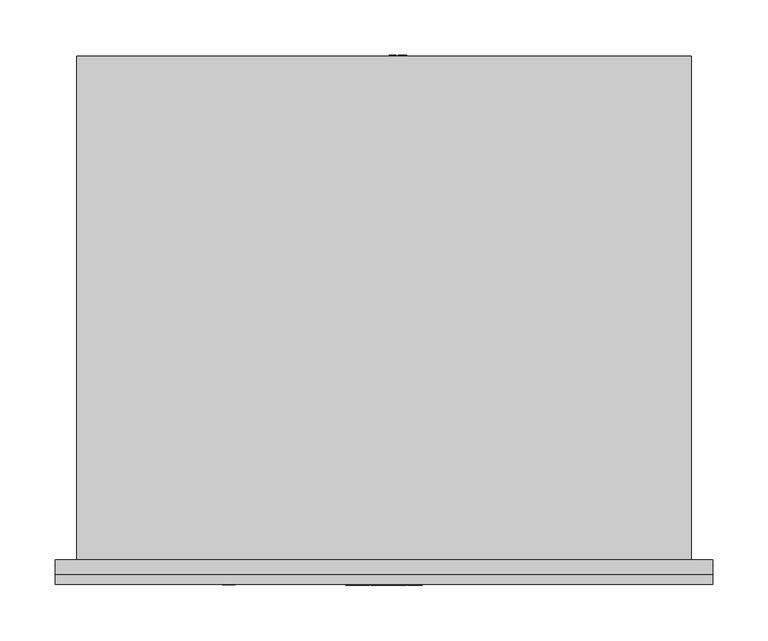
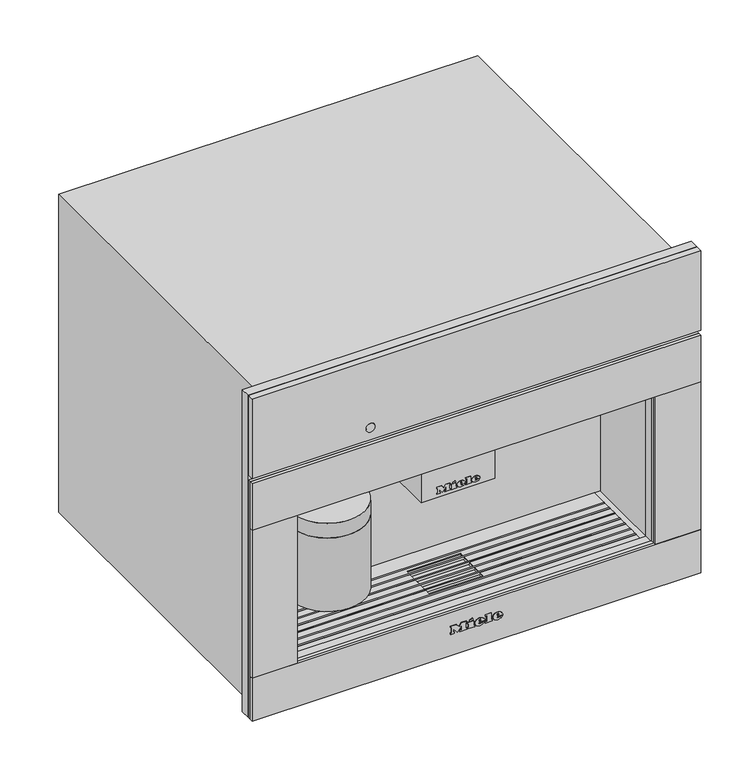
"""IFC4 building model written with IfcOpenShell, lengths in millimetres: proxy geometry, 11165710_RU_CVA7440_OBSW : 29744020_RU_11165710_CVA7440_OBSW."""

from ifc_helpers import new_model, si_unit, point, frame, frame_2d, origin, place, context, project, spatial, polyline, circle_curve, ellipse_curve, trimmed, segment, composite_curve, outline, extrude, faceted_brep, source, transform, mapped, element, save
from ifc_brep_helpers import plane_surface, cylinder_surface, revolved_surface, extruded_surface, advanced_brep


def specialty_equipment_58c7fb0d(model_context):
    return source(origin(), model_context, "Body", "SolidModel", [
        extrude(outline(composite_curve([segment(trimmed(circle_curve(frame_2d((-14.0, 36.5)), 5.0), [point((-9.0, 36.5))], [point((-19.0, 36.5))], False, "CARTESIAN"), True, "CONTINUOUS"), segment(trimmed(circle_curve(frame_2d((-14.0, 36.5)), 5.0), [point((-19.0, 36.5))], [point((-9.0, 36.5))], False, "CARTESIAN"), True, "CONTINUOUS")], self_intersect=False)), frame((0.0, 0.0, 193.0), z_axis=(0.0, 0.0, 1.0), x_axis=(1.0, 0.0, 0.0)), (0.0, 0.0, 1.0), 5.0),
        extrude(outline(composite_curve([segment(trimmed(circle_curve(frame_2d((14.0, 36.5)), 5.0), [point((19.0, 36.5))], [point((9.0, 36.5))], False, "CARTESIAN"), True, "CONTINUOUS"), segment(trimmed(circle_curve(frame_2d((14.0, 36.5)), 5.0), [point((9.0, 36.5))], [point((19.0, 36.5))], False, "CARTESIAN"), True, "CONTINUOUS")], self_intersect=False)), frame((0.0, 0.0, 193.0), z_axis=(0.0, 0.0, 1.0), x_axis=(1.0, 0.0, 0.0)), (0.0, 0.0, 1.0), 5.0),
        extrude(outline(composite_curve([segment(trimmed(circle_curve(frame_2d((-156.5, 49.5)), 50.0), [point((-106.5, 49.5))], [point((-206.5, 49.5))], False, "CARTESIAN"), True, "CONTINUOUS"), segment(trimmed(circle_curve(frame_2d((-156.5, 49.5)), 50.0), [point((-206.5, 49.5))], [point((-106.5, 49.5))], False, "CARTESIAN"), True, "CONTINUOUS")], self_intersect=False)), frame((0.0, 0.0, 100.0), z_axis=(0.0, 0.0, 1.0), x_axis=(1.0, 0.0, 0.0)), (0.0, 0.0, 1.0), 103.0),
        extrude(outline(polyline([(-49.0, 95.0), (49.0, 95.0), (49.0, 20.0), (-49.0, 20.0), (-49.0, 95.0)])), frame((0.0, 0.0, 198.0), z_axis=(0.0, 0.0, 1.0), x_axis=(1.0, 0.0, 0.0)), (0.0, 0.0, 1.0), 75.0),
        extrude(outline(polyline([(455.5, 297.5), (455.5, -297.5), (4.0, -297.5), (4.0, 297.5), (455.5, 297.5)]), holes=[polyline([(273.0, 237.5), (63.0, 237.5), (63.0, -237.5), (273.0, -237.5), (273.0, 237.5)])]), frame((0.0, -13.0, 0.0), z_axis=(0.0, 1.0, 0.0), x_axis=(0.0, 0.0, 1.0)), (0.0, 0.0, 1.0), 13.0),
        extrude(outline(polyline([(97.0, 11.140398), (107.045631, 11.140398), (107.045631, 9.8846941), (98.2557039, 9.8846941), (98.2557039, 4.8618786), (97.0, 4.8618786), (97.0, 11.140398)])), frame((0.0, 456.0, 0.0), z_axis=(0.0, 1.0, 0.0), x_axis=(0.0, 0.0, 1.0)), (0.0, 0.0, 1.0), 1.0),
        extrude(outline(polyline([(97.0, 20.4012141), (107.045631, 20.4012141), (107.045631, 13.1809168), (105.7899271, 13.1809168), (105.7899271, 19.1455102), (102.8076304, 19.1455102), (102.8076304, 13.4948427), (101.5519266, 13.4948427), (101.5519266, 19.1455102), (98.2557039, 19.1455102), (98.2557039, 13.0239538), (97.0, 13.0239538), (97.0, 20.4012141)])), frame((0.0, 456.0, 0.0), z_axis=(0.0, 1.0, 0.0), x_axis=(0.0, 0.0, 1.0)), (0.0, 0.0, 1.0), 1.0),
        advanced_brep(
        [(55.0, 425.5, 102.0), (55.0, 410.5, 102.0), (5.5239538, 410.5, 102.0), (20.5239538, 425.5, 102.0), (20.5239538, 456.0, 102.0), (5.5239538, 456.0, 102.0)],
        [
            (0, 1, circle_curve(frame((55.0, 418.0, 102.0), z_axis=(-1.0, 0.0, 0.0), x_axis=(0.0, -1.0, 0.0)), 7.5)),
            (1, 2),
            (2, 3, ellipse_curve(frame((13.0239538, 418.0, 102.0), z_axis=(0.7071067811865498, -0.7071067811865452, 0.0), x_axis=(0.7071067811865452, 0.7071067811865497, 0.0)), 10.6066017, 7.5)),
            (3, 0),
            (2, 3, ellipse_curve(frame((13.0239538, 418.0, 102.0), z_axis=(-0.7071067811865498, 0.7071067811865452, 0.0), x_axis=(-0.7071067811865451, -0.7071067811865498, 0.0)), 10.6066017, 7.5)),
            (3, 4),
            (4, 5, circle_curve(frame((13.0239538, 456.0, 102.0), z_axis=(0.0, -1.0, 0.0), x_axis=(-1.0, 0.0, 0.0)), 7.5)),
            (5, 2),
            (0, 1, circle_curve(frame((55.0, 418.0, 102.0), z_axis=(1.0, 0.0, 0.0), x_axis=(0.0, -1.0, 0.0)), 7.5)),
            (4, 5, circle_curve(frame((13.0239538, 456.0, 102.0), z_axis=(0.0, 1.0, 0.0), x_axis=(-1.0, 0.0, 0.0)), 7.5)),
        ],
        [
            cylinder_surface(frame((55.0, 418.0, 102.0), z_axis=(1.0, 0.0, 0.0), x_axis=(0.0, -1.0, 0.0)), 7.5),
            cylinder_surface(frame((13.0239538, 418.0, 102.0), z_axis=(0.0, -1.0, 0.0), x_axis=(-1.0, 0.0, 0.0)), 7.5),
            plane_surface(frame((55.0, 418.0, 102.0), z_axis=(1.0, 0.0, 0.0), x_axis=(0.0, 0.0, 1.0))),
            plane_surface(frame((13.0239538, 456.0, 102.0), z_axis=(0.0, 1.0, 0.0), x_axis=(0.0, 0.0, 1.0))),
        ],
        [
            (0, [[1, 2, 3, 4]]),
            (1, [[5, 6, 7, 8]]),
            (2, [[9, -1]]),
            (0, [[-9, -4, -5, -2]]),
            (3, [[10, -7]]),
            (1, [[-3, -8, -10, -6]]),
        ],
    ),
        advanced_brep(
        [(-106.5, 49.5, 203.0), (-206.5, 49.5, 203.0), (-156.5, 49.5, 203.0), (-106.5, 49.5, 223.5), (-206.5, 49.5, 223.5), (-110.0, 49.5, 252.0), (-203.0, 49.5, 252.0), (-110.0, 49.5, 273.0), (-203.0, 49.5, 273.0), (-156.5, 49.5, 273.0)],
        [
            (0, 1, circle_curve(frame((-156.5, 49.5, 203.0), z_axis=(0.0, 0.0, -1.0), x_axis=(-1.0, 0.0, 0.0)), 50.0)),
            (1, 2),
            (2, 0),
            (1, 0, circle_curve(frame((-156.5, 49.5, 203.0), z_axis=(0.0, 0.0, -1.0), x_axis=(-1.0, 0.0, 0.0)), 50.0)),
            (3, 4, circle_curve(frame((-156.5, 49.5, 223.5), z_axis=(0.0, 0.0, -1.0), x_axis=(-1.0, 0.0, 0.0)), 50.0)),
            (4, 1),
            (0, 3),
            (4, 3, circle_curve(frame((-156.5, 49.5, 223.5), z_axis=(0.0, 0.0, -1.0), x_axis=(-1.0, 0.0, 0.0)), 50.0)),
            (5, 6, circle_curve(frame((-156.5, 49.5, 252.0), z_axis=(0.0, 0.0, -1.0), x_axis=(-1.0, 0.0, 0.0)), 46.5)),
            (6, 4, circle_curve(frame((-206.7961166, 49.5, 238.0012775), z_axis=(0.0, 1.0, 0.0), x_axis=(-1.0, 0.0, 0.0)), 14.5043005)),
            (3, 5, circle_curve(frame((-106.2038834, 49.5, 238.0012775), z_axis=(0.0, 1.0, 0.0), x_axis=(1.0, 0.0, 0.0)), 14.5043005)),
            (6, 5, circle_curve(frame((-156.5, 49.5, 252.0), z_axis=(0.0, 0.0, -1.0), x_axis=(-1.0, 0.0, 0.0)), 46.5)),
            (7, 8, circle_curve(frame((-156.5, 49.5, 273.0), z_axis=(0.0, 0.0, -1.0), x_axis=(-1.0, 0.0, 0.0)), 46.5)),
            (8, 6),
            (5, 7),
            (8, 7, circle_curve(frame((-156.5, 49.5, 273.0), z_axis=(0.0, 0.0, -1.0), x_axis=(-1.0, 0.0, 0.0)), 46.5)),
            (9, 8),
            (7, 9),
        ],
        [
            plane_surface(frame((-156.5, 49.5, 203.0), z_axis=(0.0, 0.0, -1.0), x_axis=(-1.0, 0.0, 0.0))),
            cylinder_surface(frame((-156.5, 49.5, 388.7361736), z_axis=(0.0, 0.0, 1.0), x_axis=(-1.0, 0.0, 0.0)), 50.0),
            revolved_surface(trimmed(ellipse_curve(frame((-206.7961166, 49.5, 238.0012775), z_axis=(0.0, -1.0, 0.0), x_axis=(-1.0, 0.0, 0.0)), 14.5043005, 14.5043005), [point((-206.5, 49.5, 223.5))], [point((-203.0, 49.5, 252.0))], True, "CARTESIAN"), (-156.5, 49.5, 388.7361736), (0.0, 0.0, 1.0)),
            cylinder_surface(frame((-156.5, 49.5, 388.7361736), z_axis=(0.0, 0.0, 1.0), x_axis=(-1.0, 0.0, 0.0)), 46.5),
            plane_surface(frame((-156.5, 49.5, 273.0), z_axis=(0.0, 0.0, 1.0), x_axis=(-1.0, 0.0, 0.0))),
        ],
        [
            (0, [[1, 2, 3]]),
            (0, [[4, -3, -2]]),
            (1, [[5, 6, -1, 7]]),
            (1, [[8, -7, -4, -6]]),
            (2, [[9, 10, -5, 11]]),
            (2, [[12, -11, -8, -10]]),
            (3, [[13, 14, -9, 15]]),
            (3, [[16, -15, -12, -14]]),
            (4, [[17, -13, 18]]),
            (4, [[-18, -16, -17]]),
        ],
    ),
        faceted_brep([(229.5, 0.0, 62.0), (-229.5, 0.0, 62.0), (-229.5, 8.0, 62.0), (229.5, 8.0, 62.0), (-229.5, 104.5, 62.0), (229.5, 104.5, 62.0), (229.5, 82.0925571, 62.0), (-229.5, 82.0925571, 62.0), (36.0, 76.0, 62.0), (-36.0, 76.0, 62.0), (-36.0, 70.0550731, 62.0), (-229.5, 70.0550731, 62.0), (-229.5, 80.0925571, 62.0), (229.5, 80.0925571, 62.0), (229.5, 70.0550731, 62.0), (36.0, 70.0550731, 62.0), (-36.0, 25.0, 62.0), (36.0, 25.0, 62.0), (36.0, 31.9426212, 62.0), (229.5, 31.9426212, 62.0), (229.5, 21.9776522, 62.0), (-229.5, 21.9776522, 62.0), (-229.5, 31.9426212, 62.0), (-36.0, 31.9426212, 62.0), (229.5, 19.9776522, 62.0), (229.5, 10.0, 62.0), (-229.5, 10.0, 62.0), (-229.5, 19.9776522, 62.0), (229.5, 43.9801052, 62.0), (229.5, 33.9426212, 62.0), (36.0, 33.9426212, 62.0), (36.0, 43.9801052, 62.0), (229.5, 56.0175891, 62.0), (229.5, 45.9801052, 62.0), (36.0, 45.9801052, 62.0), (36.0, 56.0175891, 62.0), (229.5, 68.0550731, 62.0), (229.5, 58.0175891, 62.0), (36.0, 58.0175891, 62.0), (36.0, 68.0550731, 62.0), (-229.5, 33.9426212, 62.0), (-229.5, 43.9801052, 62.0), (-36.0, 43.9801052, 62.0), (-36.0, 33.9426212, 62.0), (-229.5, 45.9801052, 62.0), (-229.5, 56.0175891, 62.0), (-36.0, 56.0175891, 62.0), (-36.0, 45.9801052, 62.0), (-229.5, 58.0175891, 62.0), (-229.5, 68.0550731, 62.0), (-36.0, 68.0550731, 62.0), (-36.0, 58.0175891, 62.0), (229.5, 104.5, 63.0), (-229.5, 104.5, 63.0), (-229.5, 82.0925571, 63.0), (229.5, 82.0925571, 63.0), (-229.5, 0.0, 63.0), (229.5, 0.0, 63.0), (229.5, 8.0, 63.0), (-229.5, 8.0, 63.0), (-36.0, 76.0, 63.0), (36.0, 76.0, 63.0), (36.0, 70.0550731, 63.0), (229.5, 70.0550731, 63.0), (229.5, 80.0925571, 63.0), (-229.5, 80.0925571, 63.0), (-229.5, 70.0550731, 63.0), (-36.0, 70.0550731, 63.0), (36.0, 25.0, 63.0), (-36.0, 25.0, 63.0), (-36.0, 31.9426212, 63.0), (-229.5, 31.9426212, 63.0), (-229.5, 21.9776522, 63.0), (229.5, 21.9776522, 63.0), (229.5, 31.9426212, 63.0), (36.0, 31.9426212, 63.0), (-229.5, 19.9776522, 63.0), (-229.5, 10.0, 63.0), (229.5, 10.0, 63.0), (229.5, 19.9776522, 63.0), (-229.5, 43.9801052, 63.0), (-229.5, 33.9426212, 63.0), (-36.0, 33.9426212, 63.0), (-36.0, 43.9801052, 63.0), (-229.5, 56.0175891, 63.0), (-229.5, 45.9801052, 63.0), (-36.0, 45.9801052, 63.0), (-36.0, 56.0175891, 63.0), (-229.5, 68.0550731, 63.0), (-229.5, 58.0175891, 63.0), (-36.0, 58.0175891, 63.0), (-36.0, 68.0550731, 63.0), (229.5, 33.9426212, 63.0), (229.5, 43.9801052, 63.0), (36.0, 43.9801052, 63.0), (36.0, 33.9426212, 63.0), (229.5, 45.9801052, 63.0), (229.5, 56.0175891, 63.0), (36.0, 56.0175891, 63.0), (36.0, 45.9801052, 63.0), (229.5, 58.0175891, 63.0), (229.5, 68.0550731, 63.0), (36.0, 68.0550731, 63.0), (36.0, 58.0175891, 63.0), (-229.5, 82.0925571, 60.0), (-229.5, 80.0925571, 60.0), (-229.5, 70.0550731, 60.0), (-229.5, 68.0550731, 60.0), (-229.5, 58.0175891, 60.0), (-229.5, 56.0175891, 60.0), (-229.5, 45.9801052, 60.0), (-229.5, 43.9801052, 60.0), (-229.5, 33.9426212, 60.0), (-229.5, 31.9426212, 60.0), (-229.5, 21.9776522, 60.0), (-229.5, 19.9776522, 60.0), (-229.5, 10.0, 60.0), (-229.5, 8.0, 60.0), (-229.5, 8.0, 63.5), (-229.5, 10.0, 63.5), (-229.5, 19.9776522, 63.5), (-229.5, 21.9776522, 63.5), (-229.5, 31.9426212, 63.5), (-229.5, 33.9426212, 63.5), (-229.5, 43.9801052, 63.5), (-229.5, 45.9801052, 63.5), (-229.5, 56.0175891, 63.5), (-229.5, 58.0175891, 63.5), (-229.5, 68.0550731, 63.5), (-229.5, 70.0550731, 63.5), (-229.5, 80.0925571, 63.5), (-229.5, 82.0925571, 63.5), (229.5, 82.0925571, 63.5), (229.5, 80.0925571, 63.5), (229.5, 70.0550731, 63.5), (229.5, 68.0550731, 63.5), (229.5, 58.0175891, 63.5), (229.5, 56.0175891, 63.5), (229.5, 45.9801052, 63.5), (229.5, 43.9801052, 63.5), (229.5, 33.9426212, 63.5), (229.5, 31.9426212, 63.5), (229.5, 21.9776522, 63.5), (229.5, 19.9776522, 63.5), (229.5, 10.0, 63.5), (229.5, 8.0, 63.5), (229.5, 8.0, 60.0), (229.5, 10.0, 60.0), (229.5, 19.9776522, 60.0), (229.5, 21.9776522, 60.0), (229.5, 31.9426212, 60.0), (229.5, 33.9426212, 60.0), (229.5, 43.9801052, 60.0), (229.5, 45.9801052, 60.0), (229.5, 56.0175891, 60.0), (229.5, 58.0175891, 60.0), (229.5, 68.0550731, 60.0), (229.5, 70.0550731, 60.0), (229.5, 80.0925571, 60.0), (229.5, 82.0925571, 60.0)], [[[0, 1, 2, 3]], [[4, 5, 6, 7]], [[8, 9, 10, 11, 12, 13, 14, 15]], [[16, 17, 18, 19, 20, 21, 22, 23]], [[24, 25, 26, 27]], [[28, 29, 30, 31]], [[32, 33, 34, 35]], [[36, 37, 38, 39]], [[40, 41, 42, 43]], [[44, 45, 46, 47]], [[48, 49, 50, 51]], [[52, 53, 54, 55]], [[56, 57, 58, 59]], [[60, 61, 62, 63, 64, 65, 66, 67]], [[68, 69, 70, 71, 72, 73, 74, 75]], [[76, 77, 78, 79]], [[80, 81, 82, 83]], [[84, 85, 86, 87]], [[88, 89, 90, 91]], [[92, 93, 94, 95]], [[96, 97, 98, 99]], [[100, 101, 102, 103]], [[5, 4, 53, 52]], [[53, 4, 7, 104, 105, 12, 11, 106, 107, 49, 48, 108, 109, 45, 44, 110, 111, 41, 40, 112, 113, 22, 21, 114, 115, 27, 26, 116, 117, 2, 1, 56, 59, 118, 119, 77, 76, 120, 121, 72, 71, 122, 123, 81, 80, 124, 125, 85, 84, 126, 127, 89, 88, 128, 129, 66, 65, 130, 131, 54]], [[1, 0, 57, 56]], [[5, 52, 55, 132, 133, 64, 63, 134, 135, 101, 100, 136, 137, 97, 96, 138, 139, 93, 92, 140, 141, 74, 73, 142, 143, 79, 78, 144, 145, 58, 57, 0, 3, 146, 147, 25, 24, 148, 149, 20, 19, 150, 151, 29, 28, 152, 153, 33, 32, 154, 155, 37, 36, 156, 157, 14, 13, 158, 159, 6]], [[8, 61, 60, 9]], [[43, 42, 83, 82]], [[47, 46, 87, 86]], [[51, 50, 91, 90]], [[9, 60, 67, 10]], [[69, 16, 23, 70]], [[16, 69, 68, 17]], [[31, 30, 95, 94]], [[35, 34, 99, 98]], [[39, 38, 103, 102]], [[61, 8, 15, 62]], [[17, 68, 75, 18]], [[147, 146, 117, 116]], [[149, 148, 115, 114]], [[151, 150, 113, 112]], [[153, 152, 111, 110]], [[155, 154, 109, 108]], [[157, 156, 107, 106]], [[159, 158, 105, 104]], [[144, 119, 118, 145]], [[142, 121, 120, 143]], [[140, 123, 122, 141]], [[138, 125, 124, 139]], [[136, 127, 126, 137]], [[134, 129, 128, 135]], [[132, 131, 130, 133]], [[147, 116, 26, 25]], [[119, 144, 78, 77]], [[117, 146, 3, 2]], [[145, 118, 59, 58]], [[149, 114, 21, 20]], [[121, 142, 73, 72]], [[115, 148, 24, 27]], [[143, 120, 76, 79]], [[151, 112, 40, 43, 82, 81, 123, 140, 92, 95, 30, 29]], [[113, 150, 19, 18, 75, 74, 141, 122, 71, 70, 23, 22]], [[153, 110, 44, 47, 86, 85, 125, 138, 96, 99, 34, 33]], [[111, 152, 28, 31, 94, 93, 139, 124, 80, 83, 42, 41]], [[155, 108, 48, 51, 90, 89, 127, 136, 100, 103, 38, 37]], [[109, 154, 32, 35, 98, 97, 137, 126, 84, 87, 46, 45]], [[157, 106, 11, 10, 67, 66, 129, 134, 63, 62, 15, 14]], [[107, 156, 36, 39, 102, 101, 135, 128, 88, 91, 50, 49]], [[159, 104, 7, 6]], [[131, 132, 55, 54]], [[105, 158, 13, 12]], [[133, 130, 65, 64]]]),
        faceted_brep([(-278.0, 456.0, 0.0), (-278.0, 0.0, 0.0), (-278.0, 0.0, 446.0), (-278.0, 456.0, 446.0), (278.0, 456.0, 0.0), (278.0, 456.0, 446.0), (278.0, 0.0, 446.0), (278.0, 0.0, 0.0), (55.0, 456.0, 133.0), (-22.0, 456.0, 133.0), (-22.0, 456.0, 89.0), (35.0, 456.0, 66.0), (55.0, 456.0, 66.0), (237.5, 0.0, 273.0), (237.5, 0.0, 63.0), (229.5, 0.0, 63.0), (229.5, 0.0, 62.0), (-229.5, 0.0, 62.0), (-229.5, 0.0, 63.0), (-237.5, 0.0, 63.0), (-237.5, 0.0, 273.0), (237.5, 104.5, 273.0), (-237.5, 104.5, 273.0), (-237.5, 104.5, 63.0), (-229.5, 104.5, 63.0), (-229.5, 104.5, 62.0), (229.5, 104.5, 62.0), (229.5, 104.5, 63.0), (237.5, 104.5, 63.0), (-36.0, 76.0, 62.0), (36.0, 76.0, 62.0), (36.0, 25.0, 62.0), (-36.0, 25.0, 62.0), (36.0, 76.0, 58.0), (-36.0, 76.0, 58.0), (-36.0, 25.0, 58.0), (36.0, 25.0, 58.0), (-22.0, 400.0, 133.0), (55.0, 400.0, 133.0), (55.0, 400.0, 66.0), (35.0, 400.0, 66.0), (-22.0, 400.0, 89.0)], [[[0, 1, 2, 3]], [[4, 5, 6, 7]], [[0, 3, 5, 4], [8, 9, 10, 11, 12]], [[3, 2, 6, 5]], [[2, 1, 7, 6], [13, 14, 15, 16, 17, 18, 19, 20]], [[1, 0, 4, 7]], [[21, 22, 23, 24, 25, 26, 27, 28]], [[21, 28, 14, 13]], [[14, 28, 27, 15]], [[23, 19, 18, 24]], [[23, 22, 20, 19]], [[22, 21, 13, 20]], [[26, 25, 17, 16], [29, 30, 31, 32]], [[17, 25, 24, 18]], [[26, 16, 15, 27]], [[33, 34, 35, 36]], [[34, 33, 30, 29]], [[35, 34, 29, 32]], [[36, 35, 32, 31]], [[33, 36, 31, 30]], [[37, 38, 39, 40, 41]], [[38, 37, 9, 8]], [[39, 38, 8, 12]], [[40, 39, 12, 11]], [[41, 40, 11, 10]], [[37, 41, 10, 9]]]),
        advanced_brep(
        [(27.088, -23.0, 36.7018), (27.088, -23.0, 37.8532), (34.7146, -23.0, 37.8532), (21.445, -23.0, 37.8532), (24.58, -23.0, 34.0), (34.5208, -23.0, 36.7018), (31.078, -23.0, 36.7018), (28.3648, -23.0, 35.425), (27.088, -23.0, 39.3124), (27.088, -23.0, 40.555), (29.0374, -23.0, 40.555), (29.0374, -23.0, 39.3124), (27.088, -22.0, 36.7018), (28.3648, -22.0, 35.425), (31.078, -22.0, 36.7018), (34.5208, -22.0, 36.7018), (24.58, -22.0, 34.0), (21.445, -22.0, 37.8532), (34.7146, -22.0, 37.8532), (27.088, -22.0, 37.8532), (27.088, -22.0, 39.3124), (29.0374, -22.0, 39.3124), (29.0374, -22.0, 40.555), (27.088, -22.0, 40.555)],
        [
            (0, 1),
            (1, 2),
            (2, 3, ellipse_curve(frame((28.0798, -23.0, 37.8532), z_axis=(0.0, -1.0, 0.0), x_axis=(-1.0, 0.0, 0.0)), 6.6348, 5.4834)),
            (3, 4, circle_curve(frame((25.8568622, -23.0, 38.2408), z_axis=(0.0, -1.0, 0.0), x_axis=(0.0, 0.0, -1.0)), 4.4288556)),
            (4, 5, circle_curve(frame((27.9469808, -23.0, 41.2504), z_axis=(0.0, -1.0, 0.0), x_axis=(0.0, 0.0, -1.0)), 7.9940516)),
            (5, 6),
            (6, 7, circle_curve(frame((28.9220588, -23.0, 37.762), z_axis=(0.0, 1.0, 0.0), x_axis=(0.0, 0.0, -1.0)), 2.4025208)),
            (7, 0, circle_curve(frame((28.3648, -23.0, 36.7018), z_axis=(0.0, 1.0, 0.0), x_axis=(0.0, 0.0, -1.0)), 1.2768)),
            (8, 9),
            (9, 10, circle_curve(frame((28.0627, -23.0, 40.555), z_axis=(0.0, 1.0, 0.0), x_axis=(0.0, 0.0, -1.0)), 0.9747)),
            (10, 11),
            (11, 8),
            (12, 13, circle_curve(frame((28.3648, -22.0, 36.7018), z_axis=(0.0, -1.0, 0.0), x_axis=(0.0, 0.0, -1.0)), 1.2768)),
            (13, 14, circle_curve(frame((28.9220588, -22.0, 37.762), z_axis=(0.0, -1.0, 0.0), x_axis=(0.0, 0.0, -1.0)), 2.4025208)),
            (14, 15),
            (15, 16, circle_curve(frame((27.9469808, -22.0, 41.2504), z_axis=(0.0, 1.0, 0.0), x_axis=(0.0, 0.0, -1.0)), 7.9940516)),
            (16, 17, circle_curve(frame((25.8568622, -22.0, 38.2408), z_axis=(0.0, 1.0, 0.0), x_axis=(0.0, 0.0, -1.0)), 4.4288556)),
            (17, 18, ellipse_curve(frame((28.0798, -22.0, 37.8532), z_axis=(0.0, 1.0, 0.0), x_axis=(-1.0, 0.0, 0.0)), 6.6348, 5.4834)),
            (18, 19),
            (19, 12),
            (20, 21),
            (21, 22),
            (22, 23, circle_curve(frame((28.0627, -22.0, 40.555), z_axis=(0.0, -1.0, 0.0), x_axis=(0.0, 0.0, -1.0)), 0.9747)),
            (23, 20),
            (0, 12),
            (19, 1),
            (18, 2),
            (5, 15),
            (14, 6),
            (17, 3),
            (13, 7),
            (16, 4),
            (8, 20),
            (23, 9),
            (22, 10),
            (21, 11),
        ],
        [
            plane_surface(frame((27.088, -23.0, 37.8532), z_axis=(0.0, -1.0, 0.0), x_axis=(0.0, 0.0, 1.0))),
            plane_surface(frame((27.088, -22.0, 37.8532), z_axis=(0.0, 1.0, 0.0), x_axis=(0.0, 0.0, -1.0))),
            plane_surface(frame((27.088, -23.0, 36.7018), z_axis=(1.0, 0.0, 0.0), x_axis=(0.0, 1.0, 0.0))),
            plane_surface(frame((27.088, -23.0, 37.8532), z_axis=(0.0, 0.0, -1.0), x_axis=(0.0, 1.0, 0.0))),
            plane_surface(frame((34.5208, -23.0, 36.7018), z_axis=(0.0, 0.0, 1.0), x_axis=(0.0, 1.0, 0.0))),
            extruded_surface(trimmed(ellipse_curve(frame((28.0798, -21.0, 37.8532), z_axis=(0.0, -1.0, 0.0), x_axis=(-1.0, 0.0, 0.0)), 6.6348, 5.4834), [point((34.7146, -21.0, 37.8532))], [point((21.445, -21.0, 37.8532))], True, "CARTESIAN"), (0.0, -1.0, 0.0), 1.0),
            revolved_surface(polyline([(28.9220588, -22.0, 35.3594792), (28.9220588, -23.0, 35.3594792)]), (28.9220588, -22.0, 37.762), (0.0, 1.0, 0.0)),
            revolved_surface(polyline([(28.3648, -22.0, 35.425), (28.3648, -23.0, 35.425)]), (28.3648, -22.0, 36.7018), (0.0, 1.0, 0.0)),
            cylinder_surface(frame((25.8568622, -22.0, 38.2408), z_axis=(0.0, -1.0, 0.0), x_axis=(0.0, 0.0, -1.0)), 4.4288556),
            cylinder_surface(frame((27.9469808, -22.0, 41.2504), z_axis=(0.0, -1.0, 0.0), x_axis=(0.0, 0.0, -1.0)), 7.9940516),
            plane_surface(frame((27.088, -23.0, 39.3124), z_axis=(1.0, 0.0, 0.0), x_axis=(0.0, 1.0, 0.0))),
            revolved_surface(polyline([(28.0627, -22.0, 39.5803), (28.0627, -23.0, 39.5803)]), (28.0627, -22.0, 40.555), (0.0, 1.0, 0.0)),
            plane_surface(frame((29.0374, -23.0, 40.555), z_axis=(-1.0, 0.0, 0.0), x_axis=(0.0, 1.0, 0.0))),
            plane_surface(frame((29.0374, -23.0, 39.3124), z_axis=(0.0, 0.0, 1.0), x_axis=(0.0, 1.0, 0.0))),
        ],
        [
            (0, [[1, 2, 3, 4, 5, 6, 7, 8], [9, 10, 11, 12]]),
            (1, [[13, 14, 15, 16, 17, 18, 19, 20], [21, 22, 23, 24]]),
            (2, [[-1, 25, -20, 26]]),
            (3, [[-2, -26, -19, 27]]),
            (4, [[-6, 28, -15, 29]]),
            (5, [[-3, -27, -18, 30]]),
            (6, [[-7, -29, -14, 31]]),
            (7, [[-8, -31, -13, -25]]),
            (8, [[-4, -30, -17, 32]]),
            (9, [[-5, -32, -16, -28]]),
            (10, [[-9, 33, -24, 34]]),
            (11, [[-10, -34, -23, 35]]),
            (12, [[-11, -35, -22, 36]]),
            (13, [[-12, -36, -21, -33]]),
        ],
    ),
        advanced_brep(
        [(3.2962, -23.0, 36.7018), (3.2962, -23.0, 37.8532), (10.9228, -23.0, 37.8532), (-2.3468, -23.0, 37.8532), (0.7882, -23.0, 34.0), (10.729, -23.0, 36.7018), (7.2862, -23.0, 36.7018), (4.573, -23.0, 35.425), (3.2962, -23.0, 39.3124), (3.2962, -23.0, 40.555), (5.2456, -23.0, 40.555), (5.2456, -23.0, 39.3124), (3.2962, -22.0, 36.7018), (4.573, -22.0, 35.425), (7.2862, -22.0, 36.7018), (10.729, -22.0, 36.7018), (0.7882, -22.0, 34.0), (-2.3468, -22.0, 37.8532), (10.9228, -22.0, 37.8532), (3.2962, -22.0, 37.8532), (3.2962, -22.0, 39.3124), (5.2456, -22.0, 39.3124), (5.2456, -22.0, 40.555), (3.2962, -22.0, 40.555)],
        [
            (0, 1),
            (1, 2),
            (2, 3, ellipse_curve(frame((4.288, -23.0, 37.8532), z_axis=(0.0, -1.0, 0.0), x_axis=(-1.0, 0.0, 0.0)), 6.6348, 5.4834)),
            (3, 4, circle_curve(frame((2.0650622, -23.0, 38.2408), z_axis=(0.0, -1.0, 0.0), x_axis=(0.0, 0.0, -1.0)), 4.4288556)),
            (4, 5, circle_curve(frame((4.1551808, -23.0, 41.2504), z_axis=(0.0, -1.0, 0.0), x_axis=(0.0, 0.0, -1.0)), 7.9940516)),
            (5, 6),
            (6, 7, circle_curve(frame((5.1302588, -23.0, 37.762), z_axis=(0.0, 1.0, 0.0), x_axis=(0.0, 0.0, -1.0)), 2.4025208)),
            (7, 0, circle_curve(frame((4.573, -23.0, 36.7018), z_axis=(0.0, 1.0, 0.0), x_axis=(0.0, 0.0, -1.0)), 1.2768)),
            (8, 9),
            (9, 10, circle_curve(frame((4.2709, -23.0, 40.555), z_axis=(0.0, 1.0, 0.0), x_axis=(0.0, 0.0, -1.0)), 0.9747)),
            (10, 11),
            (11, 8),
            (12, 13, circle_curve(frame((4.573, -22.0, 36.7018), z_axis=(0.0, -1.0, 0.0), x_axis=(0.0, 0.0, -1.0)), 1.2768)),
            (13, 14, circle_curve(frame((5.1302588, -22.0, 37.762), z_axis=(0.0, -1.0, 0.0), x_axis=(0.0, 0.0, -1.0)), 2.4025208)),
            (14, 15),
            (15, 16, circle_curve(frame((4.1551808, -22.0, 41.2504), z_axis=(0.0, 1.0, 0.0), x_axis=(0.0, 0.0, -1.0)), 7.9940516)),
            (16, 17, circle_curve(frame((2.0650622, -22.0, 38.2408), z_axis=(0.0, 1.0, 0.0), x_axis=(0.0, 0.0, -1.0)), 4.4288556)),
            (17, 18, ellipse_curve(frame((4.288, -22.0, 37.8532), z_axis=(0.0, 1.0, 0.0), x_axis=(-1.0, 0.0, 0.0)), 6.6348, 5.4834)),
            (18, 19),
            (19, 12),
            (20, 21),
            (21, 22),
            (22, 23, circle_curve(frame((4.2709, -22.0, 40.555), z_axis=(0.0, -1.0, 0.0), x_axis=(0.0, 0.0, -1.0)), 0.9747)),
            (23, 20),
            (0, 12),
            (19, 1),
            (18, 2),
            (5, 15),
            (14, 6),
            (17, 3),
            (13, 7),
            (16, 4),
            (8, 20),
            (23, 9),
            (22, 10),
            (21, 11),
        ],
        [
            plane_surface(frame((3.2962, -23.0, 37.8532), z_axis=(0.0, -1.0, 0.0), x_axis=(0.0, 0.0, 1.0))),
            plane_surface(frame((3.2962, -22.0, 37.8532), z_axis=(0.0, 1.0, 0.0), x_axis=(0.0, 0.0, -1.0))),
            plane_surface(frame((3.2962, -23.0, 36.7018), z_axis=(1.0, 0.0, 0.0), x_axis=(0.0, 1.0, 0.0))),
            plane_surface(frame((3.2962, -23.0, 37.8532), z_axis=(0.0, 0.0, -1.0), x_axis=(0.0, 1.0, 0.0))),
            plane_surface(frame((10.729, -23.0, 36.7018), z_axis=(0.0, 0.0, 1.0), x_axis=(0.0, 1.0, 0.0))),
            extruded_surface(trimmed(ellipse_curve(frame((4.288, -21.0, 37.8532), z_axis=(0.0, -1.0, 0.0), x_axis=(-1.0, 0.0, 0.0)), 6.6348, 5.4834), [point((10.9228, -21.0, 37.8532))], [point((-2.3468, -21.0, 37.8532))], True, "CARTESIAN"), (0.0, -1.0, 0.0), 1.0),
            revolved_surface(polyline([(5.1302588, -22.0, 35.3594792), (5.1302588, -23.0, 35.3594792)]), (5.1302588, -22.0, 37.762), (0.0, 1.0, 0.0)),
            revolved_surface(polyline([(4.573, -22.0, 35.425), (4.573, -23.0, 35.425)]), (4.573, -22.0, 36.7018), (0.0, 1.0, 0.0)),
            cylinder_surface(frame((2.0650622, -22.0, 38.2408), z_axis=(0.0, -1.0, 0.0), x_axis=(0.0, 0.0, -1.0)), 4.4288556),
            cylinder_surface(frame((4.1551808, -22.0, 41.2504), z_axis=(0.0, -1.0, 0.0), x_axis=(0.0, 0.0, -1.0)), 7.9940516),
            plane_surface(frame((3.2962, -23.0, 39.3124), z_axis=(1.0, 0.0, 0.0), x_axis=(0.0, 1.0, 0.0))),
            revolved_surface(polyline([(4.2709, -22.0, 39.5803), (4.2709, -23.0, 39.5803)]), (4.2709, -22.0, 40.555), (0.0, 1.0, 0.0)),
            plane_surface(frame((5.2456, -23.0, 40.555), z_axis=(-1.0, 0.0, 0.0), x_axis=(0.0, 1.0, 0.0))),
            plane_surface(frame((5.2456, -23.0, 39.3124), z_axis=(0.0, 0.0, 1.0), x_axis=(0.0, 1.0, 0.0))),
        ],
        [
            (0, [[1, 2, 3, 4, 5, 6, 7, 8], [9, 10, 11, 12]]),
            (1, [[13, 14, 15, 16, 17, 18, 19, 20], [21, 22, 23, 24]]),
            (2, [[-1, 25, -20, 26]]),
            (3, [[-2, -26, -19, 27]]),
            (4, [[-6, 28, -15, 29]]),
            (5, [[-3, -27, -18, 30]]),
            (6, [[-7, -29, -14, 31]]),
            (7, [[-8, -31, -13, -25]]),
            (8, [[-4, -30, -17, 32]]),
            (9, [[-5, -32, -16, -28]]),
            (10, [[-9, 33, -24, 34]]),
            (11, [[-10, -34, -23, 35]]),
            (12, [[-11, -35, -22, 36]]),
            (13, [[-12, -36, -21, -33]]),
        ],
    ),
        extrude(outline(polyline([(44.7274, -9.164), (42.8806, -8.2976), (44.6818, -4.433), (46.5286, -5.288), (44.7274, -9.164)])), frame((0.0, -23.0, 0.0), z_axis=(0.0, 1.0, 0.0), x_axis=(0.0, 0.0, 1.0)), (0.0, 0.0, 1.0), 1.0),
        extrude(outline(polyline([(42.6298, -11.9798), (40.5892, -11.9798), (40.5892, -10.6232), (35.9152, -10.6232), (35.9152, -11.9798), (34.0, -11.9798), (34.0, -2.9852), (35.9152, -2.9852), (35.9152, -4.3076), (42.6298, -4.3076), (42.6298, -11.9798)])), frame((0.0, -23.0, 0.0), z_axis=(0.0, 1.0, 0.0), x_axis=(0.0, 0.0, 1.0)), (0.0, 0.0, 1.0), 1.0),
        extrude(outline(polyline([(43.5418, 11.5612), (43.5418, 12.9292), (35.9152, 12.9292), (35.9152, 11.5612), (34.0, 11.5612), (34.0, 20.8066), (35.9152, 20.8066), (35.9152, 19.4044), (45.4, 19.4044), (45.4, 11.5612), (43.5418, 11.5612)])), frame((0.0, -23.0, 0.0), z_axis=(0.0, 1.0, 0.0), x_axis=(0.0, 0.0, 1.0)), (0.0, 0.0, 1.0), 1.0),
        extrude(outline(polyline([(43.5418, -34.7), (43.5418, -33.3206), (35.9152, -33.3206), (35.9152, -34.7), (34.0, -34.7), (34.0, -29.684), (35.9152, -29.684), (35.9152, -31.052), (40.7429247, -31.052), (34.0, -25.9562), (40.9402223, -20.8376), (35.9152, -20.8376), (35.9152, -22.2398), (34.0, -22.2398), (34.0, -13.1426), (35.9152, -13.1426), (35.9152, -14.5904), (43.5418, -14.5904), (43.5418, -13.1426), (45.4, -13.1426), (45.4, -20.0852), (41.125, -23.414), (45.4, -26.7542), (45.4, -34.7), (43.5418, -34.7)])), frame((0.0, -23.0, 0.0), z_axis=(0.0, 1.0, 0.0), x_axis=(0.0, 0.0, 1.0)), (0.0, 0.0, 1.0), 1.0),
        advanced_brep(
        [(22.348, 19.0, 205.5278), (22.348, 19.0, 206.4772), (28.6366, 19.0, 206.4772), (17.695, 19.0, 206.4772), (20.28, 19.0, 203.3), (28.4768, 19.0, 205.5278), (25.638, 19.0, 205.5278), (23.4008, 19.0, 204.475), (22.348, 19.0, 207.6804), (22.348, 19.0, 208.705), (23.9554, 19.0, 208.705), (23.9554, 19.0, 207.6804), (22.348, 20.0, 205.5278), (23.4008, 20.0, 204.475), (25.638, 20.0, 205.5278), (28.4768, 20.0, 205.5278), (20.28, 20.0, 203.3), (17.695, 20.0, 206.4772), (28.6366, 20.0, 206.4772), (22.348, 20.0, 206.4772), (22.348, 20.0, 207.6804), (23.9554, 20.0, 207.6804), (23.9554, 20.0, 208.705), (22.348, 20.0, 208.705)],
        [
            (0, 1),
            (1, 2),
            (2, 3, ellipse_curve(frame((23.1658, 19.0, 206.4772), z_axis=(0.0, -1.0, 0.0), x_axis=(-1.0, 0.0, 0.0)), 5.4708, 4.5214)),
            (3, 4, circle_curve(frame((21.3328513, 19.0, 206.7968), z_axis=(0.0, -1.0, 0.0), x_axis=(0.0, 0.0, -1.0)), 3.6518634)),
            (4, 5, circle_curve(frame((23.0562825, 19.0, 209.2784), z_axis=(0.0, -1.0, 0.0), x_axis=(0.0, 0.0, -1.0)), 6.5915864)),
            (5, 6),
            (6, 7, circle_curve(frame((23.8602941, 19.0, 206.402), z_axis=(0.0, 1.0, 0.0), x_axis=(0.0, 0.0, -1.0)), 1.981026)),
            (7, 0, circle_curve(frame((23.4008, 19.0, 205.5278), z_axis=(0.0, 1.0, 0.0), x_axis=(0.0, 0.0, -1.0)), 1.0528)),
            (8, 9),
            (9, 10, circle_curve(frame((23.1517, 19.0, 208.705), z_axis=(0.0, 1.0, 0.0), x_axis=(0.0, 0.0, -1.0)), 0.8037)),
            (10, 11),
            (11, 8),
            (12, 13, circle_curve(frame((23.4008, 20.0, 205.5278), z_axis=(0.0, -1.0, 0.0), x_axis=(0.0, 0.0, -1.0)), 1.0528)),
            (13, 14, circle_curve(frame((23.8602941, 20.0, 206.402), z_axis=(0.0, -1.0, 0.0), x_axis=(0.0, 0.0, -1.0)), 1.981026)),
            (14, 15),
            (15, 16, circle_curve(frame((23.0562825, 20.0, 209.2784), z_axis=(0.0, 1.0, 0.0), x_axis=(0.0, 0.0, -1.0)), 6.5915864)),
            (16, 17, circle_curve(frame((21.3328513, 20.0, 206.7968), z_axis=(0.0, 1.0, 0.0), x_axis=(0.0, 0.0, -1.0)), 3.6518634)),
            (17, 18, ellipse_curve(frame((23.1658, 20.0, 206.4772), z_axis=(0.0, 1.0, 0.0), x_axis=(-1.0, 0.0, 0.0)), 5.4708, 4.5214)),
            (18, 19),
            (19, 12),
            (20, 21),
            (21, 22),
            (22, 23, circle_curve(frame((23.1517, 20.0, 208.705), z_axis=(0.0, -1.0, 0.0), x_axis=(0.0, 0.0, -1.0)), 0.8037)),
            (23, 20),
            (0, 12),
            (19, 1),
            (18, 2),
            (5, 15),
            (14, 6),
            (17, 3),
            (13, 7),
            (16, 4),
            (8, 20),
            (23, 9),
            (22, 10),
            (21, 11),
        ],
        [
            plane_surface(frame((22.348, 19.0, 206.4772), z_axis=(0.0, -1.0, 0.0), x_axis=(0.0, 0.0, 1.0))),
            plane_surface(frame((22.348, 20.0, 206.4772), z_axis=(0.0, 1.0, 0.0), x_axis=(0.0, 0.0, -1.0))),
            plane_surface(frame((22.348, 19.0, 205.5278), z_axis=(1.0, 0.0, 0.0), x_axis=(0.0, 1.0, 0.0))),
            plane_surface(frame((22.348, 19.0, 206.4772), z_axis=(0.0, 0.0, -1.0), x_axis=(0.0, 1.0, 0.0))),
            plane_surface(frame((28.4768, 19.0, 205.5278), z_axis=(0.0, 0.0, 1.0), x_axis=(0.0, 1.0, 0.0))),
            extruded_surface(trimmed(ellipse_curve(frame((23.1658, 21.0, 206.4772), z_axis=(0.0, -1.0, 0.0), x_axis=(-1.0, 0.0, 0.0)), 5.4708, 4.5214), [point((28.6366, 21.0, 206.4772))], [point((17.695, 21.0, 206.4772))], True, "CARTESIAN"), (0.0, -1.0, 0.0), 1.0),
            revolved_surface(polyline([(23.8602941, 20.0, 204.420974), (23.8602941, 19.0, 204.420974)]), (23.8602941, 20.0, 206.402), (0.0, 1.0, 0.0)),
            revolved_surface(polyline([(23.4008, 20.0, 204.47500000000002), (23.4008, 19.0, 204.47500000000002)]), (23.4008, 20.0, 205.5278), (0.0, 1.0, 0.0)),
            cylinder_surface(frame((21.3328513, 20.0, 206.7968), z_axis=(0.0, -1.0, 0.0), x_axis=(0.0, 0.0, -1.0)), 3.6518634),
            cylinder_surface(frame((23.0562825, 20.0, 209.2784), z_axis=(0.0, -1.0, 0.0), x_axis=(0.0, 0.0, -1.0)), 6.5915864),
            plane_surface(frame((22.348, 19.0, 207.6804), z_axis=(1.0, 0.0, 0.0), x_axis=(0.0, 1.0, 0.0))),
            revolved_surface(polyline([(23.1517, 20.0, 207.90130000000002), (23.1517, 19.0, 207.90130000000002)]), (23.1517, 20.0, 208.705), (0.0, 1.0, 0.0)),
            plane_surface(frame((23.9554, 19.0, 208.705), z_axis=(-1.0, 0.0, 0.0), x_axis=(0.0, 1.0, 0.0))),
            plane_surface(frame((23.9554, 19.0, 207.6804), z_axis=(0.0, 0.0, 1.0), x_axis=(0.0, 1.0, 0.0))),
        ],
        [
            (0, [[1, 2, 3, 4, 5, 6, 7, 8], [9, 10, 11, 12]]),
            (1, [[13, 14, 15, 16, 17, 18, 19, 20], [21, 22, 23, 24]]),
            (2, [[-1, 25, -20, 26]]),
            (3, [[-2, -26, -19, 27]]),
            (4, [[-6, 28, -15, 29]]),
            (5, [[-3, -27, -18, 30]]),
            (6, [[-7, -29, -14, 31]]),
            (7, [[-8, -31, -13, -25]]),
            (8, [[-4, -30, -17, 32]]),
            (9, [[-5, -32, -16, -28]]),
            (10, [[-9, 33, -24, 34]]),
            (11, [[-10, -34, -23, 35]]),
            (12, [[-11, -35, -22, 36]]),
            (13, [[-12, -36, -21, -33]]),
        ],
    ),
        advanced_brep(
        [(2.7302, 19.0, 205.5278), (2.7302, 19.0, 206.4772), (9.0188, 19.0, 206.4772), (-1.9228, 19.0, 206.4772), (0.6622, 19.0, 203.3), (8.859, 19.0, 205.5278), (6.0202, 19.0, 205.5278), (3.783, 19.0, 204.475), (2.7302, 19.0, 207.6804), (2.7302, 19.0, 208.705), (4.3376, 19.0, 208.705), (4.3376, 19.0, 207.6804), (2.7302, 20.0, 205.5278), (3.783, 20.0, 204.475), (6.0202, 20.0, 205.5278), (8.859, 20.0, 205.5278), (0.6622, 20.0, 203.3), (-1.9228, 20.0, 206.4772), (9.0188, 20.0, 206.4772), (2.7302, 20.0, 206.4772), (2.7302, 20.0, 207.6804), (4.3376, 20.0, 207.6804), (4.3376, 20.0, 208.705), (2.7302, 20.0, 208.705)],
        [
            (0, 1),
            (1, 2),
            (2, 3, ellipse_curve(frame((3.548, 19.0, 206.4772), z_axis=(0.0, -1.0, 0.0), x_axis=(-1.0, 0.0, 0.0)), 5.4708, 4.5214)),
            (3, 4, circle_curve(frame((1.7150513, 19.0, 206.7968), z_axis=(0.0, -1.0, 0.0), x_axis=(0.0, 0.0, -1.0)), 3.6518634)),
            (4, 5, circle_curve(frame((3.4384825, 19.0, 209.2784), z_axis=(0.0, -1.0, 0.0), x_axis=(0.0, 0.0, -1.0)), 6.5915864)),
            (5, 6),
            (6, 7, circle_curve(frame((4.2424941, 19.0, 206.402), z_axis=(0.0, 1.0, 0.0), x_axis=(0.0, 0.0, -1.0)), 1.981026)),
            (7, 0, circle_curve(frame((3.783, 19.0, 205.5278), z_axis=(0.0, 1.0, 0.0), x_axis=(0.0, 0.0, -1.0)), 1.0528)),
            (8, 9),
            (9, 10, circle_curve(frame((3.5339, 19.0, 208.705), z_axis=(0.0, 1.0, 0.0), x_axis=(0.0, 0.0, -1.0)), 0.8037)),
            (10, 11),
            (11, 8),
            (12, 13, circle_curve(frame((3.783, 20.0, 205.5278), z_axis=(0.0, -1.0, 0.0), x_axis=(0.0, 0.0, -1.0)), 1.0528)),
            (13, 14, circle_curve(frame((4.2424941, 20.0, 206.402), z_axis=(0.0, -1.0, 0.0), x_axis=(0.0, 0.0, -1.0)), 1.981026)),
            (14, 15),
            (15, 16, circle_curve(frame((3.4384825, 20.0, 209.2784), z_axis=(0.0, 1.0, 0.0), x_axis=(0.0, 0.0, -1.0)), 6.5915864)),
            (16, 17, circle_curve(frame((1.7150513, 20.0, 206.7968), z_axis=(0.0, 1.0, 0.0), x_axis=(0.0, 0.0, -1.0)), 3.6518634)),
            (17, 18, ellipse_curve(frame((3.548, 20.0, 206.4772), z_axis=(0.0, 1.0, 0.0), x_axis=(-1.0, 0.0, 0.0)), 5.4708, 4.5214)),
            (18, 19),
            (19, 12),
            (20, 21),
            (21, 22),
            (22, 23, circle_curve(frame((3.5339, 20.0, 208.705), z_axis=(0.0, -1.0, 0.0), x_axis=(0.0, 0.0, -1.0)), 0.8037)),
            (23, 20),
            (0, 12),
            (19, 1),
            (18, 2),
            (5, 15),
            (14, 6),
            (17, 3),
            (13, 7),
            (16, 4),
            (8, 20),
            (23, 9),
            (22, 10),
            (21, 11),
        ],
        [
            plane_surface(frame((2.7302, 19.0, 206.4772), z_axis=(0.0, -1.0, 0.0), x_axis=(0.0, 0.0, 1.0))),
            plane_surface(frame((2.7302, 20.0, 206.4772), z_axis=(0.0, 1.0, 0.0), x_axis=(0.0, 0.0, -1.0))),
            plane_surface(frame((2.7302, 19.0, 205.5278), z_axis=(1.0, 0.0, 0.0), x_axis=(0.0, 1.0, 0.0))),
            plane_surface(frame((2.7302, 19.0, 206.4772), z_axis=(0.0, 0.0, -1.0), x_axis=(0.0, 1.0, 0.0))),
            plane_surface(frame((8.859, 19.0, 205.5278), z_axis=(0.0, 0.0, 1.0), x_axis=(0.0, 1.0, 0.0))),
            extruded_surface(trimmed(ellipse_curve(frame((3.548, 21.0, 206.4772), z_axis=(0.0, -1.0, 0.0), x_axis=(-1.0, 0.0, 0.0)), 5.4708, 4.5214), [point((9.0188, 21.0, 206.4772))], [point((-1.9228, 21.0, 206.4772))], True, "CARTESIAN"), (0.0, -1.0, 0.0), 1.0),
            revolved_surface(polyline([(4.2424941, 20.0, 204.420974), (4.2424941, 19.0, 204.420974)]), (4.2424941, 20.0, 206.402), (0.0, 1.0, 0.0)),
            revolved_surface(polyline([(3.783, 20.0, 204.47500000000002), (3.783, 19.0, 204.47500000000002)]), (3.783, 20.0, 205.5278), (0.0, 1.0, 0.0)),
            cylinder_surface(frame((1.7150513, 20.0, 206.7968), z_axis=(0.0, -1.0, 0.0), x_axis=(0.0, 0.0, -1.0)), 3.6518634),
            cylinder_surface(frame((3.4384825, 20.0, 209.2784), z_axis=(0.0, -1.0, 0.0), x_axis=(0.0, 0.0, -1.0)), 6.5915864),
            plane_surface(frame((2.7302, 19.0, 207.6804), z_axis=(1.0, 0.0, 0.0), x_axis=(0.0, 1.0, 0.0))),
            revolved_surface(polyline([(3.5339, 20.0, 207.90130000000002), (3.5339, 19.0, 207.90130000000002)]), (3.5339, 20.0, 208.705), (0.0, 1.0, 0.0)),
            plane_surface(frame((4.3376, 19.0, 208.705), z_axis=(-1.0, 0.0, 0.0), x_axis=(0.0, 1.0, 0.0))),
            plane_surface(frame((4.3376, 19.0, 207.6804), z_axis=(0.0, 0.0, 1.0), x_axis=(0.0, 1.0, 0.0))),
        ],
        [
            (0, [[1, 2, 3, 4, 5, 6, 7, 8], [9, 10, 11, 12]]),
            (1, [[13, 14, 15, 16, 17, 18, 19, 20], [21, 22, 23, 24]]),
            (2, [[-1, 25, -20, 26]]),
            (3, [[-2, -26, -19, 27]]),
            (4, [[-6, 28, -15, 29]]),
            (5, [[-3, -27, -18, 30]]),
            (6, [[-7, -29, -14, 31]]),
            (7, [[-8, -31, -13, -25]]),
            (8, [[-4, -30, -17, 32]]),
            (9, [[-5, -32, -16, -28]]),
            (10, [[-9, 33, -24, 34]]),
            (11, [[-10, -34, -23, 35]]),
            (12, [[-11, -35, -22, 36]]),
            (13, [[-12, -36, -21, -33]]),
        ],
    ),
        extrude(outline(polyline([(212.1454, -7.544), (210.6226, -6.8296), (212.1078, -3.643), (213.6306, -4.348), (212.1454, -7.544)])), frame((0.0, 19.0, 0.0), z_axis=(0.0, 1.0, 0.0), x_axis=(0.0, 0.0, 1.0)), (0.0, 0.0, 1.0), 1.0),
        extrude(outline(polyline([(210.4158, -9.8658), (208.7332, -9.8658), (208.7332, -8.7472), (204.8792, -8.7472), (204.8792, -9.8658), (203.3, -9.8658), (203.3, -2.4492), (204.8792, -2.4492), (204.8792, -3.5396), (210.4158, -3.5396), (210.4158, -9.8658)])), frame((0.0, 19.0, 0.0), z_axis=(0.0, 1.0, 0.0), x_axis=(0.0, 0.0, 1.0)), (0.0, 0.0, 1.0), 1.0),
        extrude(outline(polyline([(211.1678, 9.5452), (211.1678, 10.6732), (204.8792, 10.6732), (204.8792, 9.5452), (203.3, 9.5452), (203.3, 17.1686), (204.8792, 17.1686), (204.8792, 16.0124), (212.7, 16.0124), (212.7, 9.5452), (211.1678, 9.5452)])), frame((0.0, 19.0, 0.0), z_axis=(0.0, 1.0, 0.0), x_axis=(0.0, 0.0, 1.0)), (0.0, 0.0, 1.0), 1.0),
        extrude(outline(polyline([(211.1678, -28.6), (211.1678, -27.4626), (204.8792, -27.4626), (204.8792, -28.6), (203.3, -28.6), (203.3, -24.464), (204.8792, -24.464), (204.8792, -25.592), (208.8689247, -25.592), (203.3, -21.3902), (208.9902223, -17.1696), (204.8792, -17.1696), (204.8792, -18.3258), (203.3, -18.3258), (203.3, -10.8246), (204.8792, -10.8246), (204.8792, -12.0184), (211.1678, -12.0184), (211.1678, -10.8246), (212.7, -10.8246), (212.7, -16.5492), (209.175, -19.294), (212.7, -22.0482), (212.7, -28.6), (211.1678, -28.6)])), frame((0.0, 19.0, 0.0), z_axis=(0.0, 1.0, 0.0), x_axis=(0.0, 0.0, 1.0)), (0.0, 0.0, 1.0), 1.0),
        extrude(outline(polyline([(-297.5, -18.0), (297.5, -18.0), (297.5, -22.0), (-297.5, -22.0), (-297.5, -18.0)])), frame((0.0, 0.0, 272.0), z_axis=(0.0, 0.0, 1.0), x_axis=(1.0, 0.0, 0.0)), (0.0, 0.0, 1.0), 65.0),
        extrude(outline(polyline([(-297.5, -18.0), (297.5, -18.0), (297.5, -22.0), (-297.5, -22.0), (-297.5, -18.0)])), frame((0.0, 0.0, 4.0), z_axis=(0.0, 0.0, 1.0), x_axis=(1.0, 0.0, 0.0)), (0.0, 0.0, 1.0), 60.0),
        extrude(outline(polyline([(-297.5, -18.0), (-237.5, -18.0), (-237.5, -22.0), (-297.5, -22.0), (-297.5, -18.0)])), frame((0.0, 0.0, 64.5), z_axis=(0.0, 0.0, 1.0), x_axis=(1.0, 0.0, 0.0)), (0.0, 0.0, 1.0), 207.0),
        extrude(outline(polyline([(237.5, -18.0), (297.5, -18.0), (297.5, -22.0), (237.5, -22.0), (237.5, -18.0)])), frame((0.0, 0.0, 64.5), z_axis=(0.0, 0.0, 1.0), x_axis=(1.0, 0.0, 0.0)), (0.0, 0.0, 1.0), 207.0),
        extrude(outline(polyline([(337.0, 297.5), (337.0, -297.5), (4.0, -297.5), (4.0, 297.5), (337.0, 297.5)]), holes=[polyline([(272.0, 237.5), (64.0, 237.5), (64.0, -237.5), (272.0, -237.5), (272.0, 237.5)])]), frame((0.0, -18.0, 0.0), z_axis=(0.0, 1.0, 0.0), x_axis=(0.0, 0.0, 1.0)), (0.0, 0.0, 1.0), 5.0),
        extrude(outline(polyline([(297.5, -22.0), (-297.5, -22.0), (-297.5, -13.0), (297.5, -13.0), (297.5, -22.0)])), frame((0.0, 0.0, 344.0), z_axis=(0.0, 0.0, 1.0), x_axis=(1.0, 0.0, 0.0)), (0.0, 0.0, 1.0), 111.5),
        extrude(outline(composite_curve([segment(trimmed(circle_curve(frame_2d((361.0, -140.5745637)), 6.0), [point((361.0, -146.5745637))], [point((361.0, -134.5745637))], False, "CARTESIAN"), True, "CONTINUOUS"), segment(trimmed(circle_curve(frame_2d((361.0, -140.5745637)), 6.0), [point((361.0, -134.5745637))], [point((361.0, -146.5745637))], False, "CARTESIAN"), True, "CONTINUOUS")], self_intersect=False)), frame((0.0, -22.5, 0.0), z_axis=(0.0, 1.0, 0.0), x_axis=(0.0, 0.0, 1.0)), (0.0, 0.0, 1.0), 1.0),
    ])


if __name__ == "__main__":
    model = new_model("IFC4")
    model_context = context("Model", 3, world=origin())
    ifc_project = project(units=[si_unit("LENGTHUNIT", "METRE", prefix="MILLI")], contexts=[model_context])
    site = spatial("IfcSite", under=ifc_project)
    building = spatial("IfcBuilding", under=site)
    placement = place(None, origin())
    specialty_equipment_shape = specialty_equipment_58c7fb0d(model_context)
    element("IfcBuildingElementProxy", 1, Name="11165710_RU_CVA7440_OBSW : 29744020_RU_11165710_CVA7440_OBSW", ObjectType="11165710_RU_CVA7440_OBSW : 29744020_RU_11165710_CVA7440_OBSW", at=placement, inside=building, context=model_context, shape_type="MappedRepresentation", body=[
        mapped(specialty_equipment_shape, transform((0.0, 0.0, 0.0), x_axis=(1.0, 0.0, 0.0), y_axis=(0.0, 1.0, 0.0), z_axis=(0.0, 0.0, 1.0))),
    ])
    save(model, "model.ifc")
